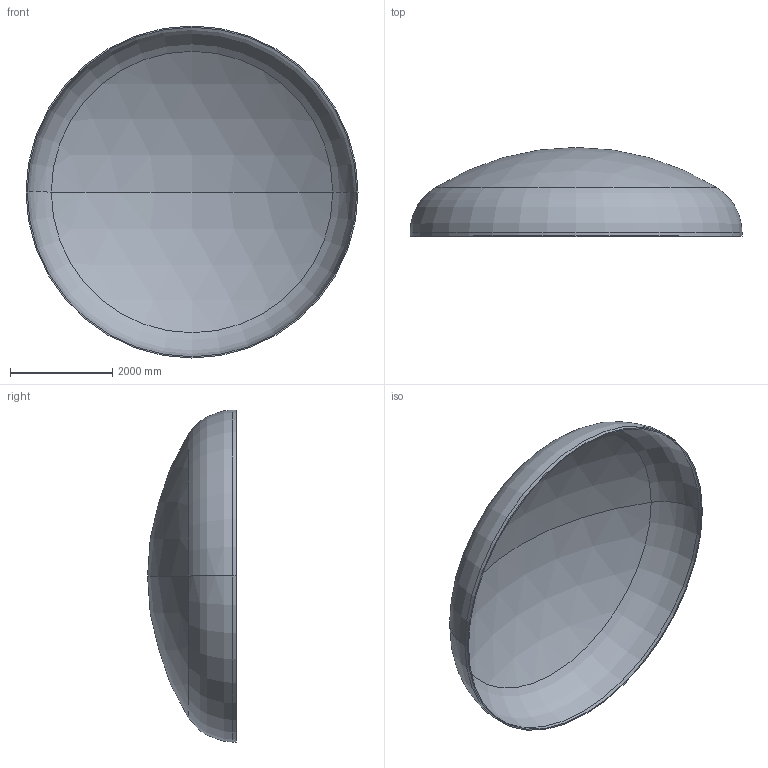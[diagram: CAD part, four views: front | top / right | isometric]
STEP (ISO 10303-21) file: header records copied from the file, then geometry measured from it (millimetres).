
FILE_DESCRIPTION (( 'STEP AP203' ), '1' );
FILE_NAME ('DIN 28013 Korbbogenform_-_Boden DIN 28013 - 6500 x 75 - I - s=24.step', '2016-07-04T10:40:40', ( '' ), ( '' ), 'SwSTEP 2.0', 'SolidWorks 2013', '' );
FILE_SCHEMA (( 'CONFIG_CONTROL_DESIGN' ));
Length unit declared in the file: millimetre
Products named in the file (1): DIN 28013 Korbbogenform_-_Boden DIN 28013 - 6500 x 75 - I - s=24
Bounding box: 6500 x 1737.41 x 6500 mm (x, y, z)
Volume: 1134092849.5 mm3; surface area: 94997184.6 mm2
Topology: 1 solids, 1 shells, 13 faces, 24 edges, 14 vertices
Faces by surface type: torus 4, cylinder 4, sphere 4, plane 1
Entity records: 407 total; most frequent: DIRECTION 72, CARTESIAN_POINT 52, ORIENTED_EDGE 48, AXIS2_PLACEMENT_3D 34, EDGE_CURVE 24, CIRCLE 20, EDGE_LOOP 14, VERTEX_POINT 14
